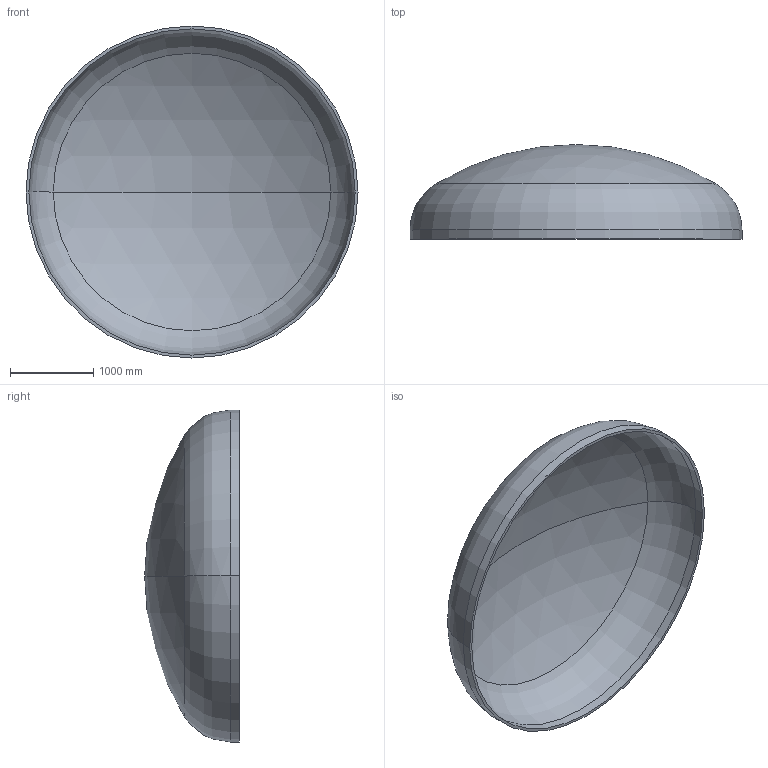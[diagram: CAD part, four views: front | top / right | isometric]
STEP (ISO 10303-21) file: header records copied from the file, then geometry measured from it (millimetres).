
FILE_DESCRIPTION (( 'STEP AP203' ), '1' );
FILE_NAME ('DIN 28013 Korbbogenform_-_Boden DIN 28013 - 4000 x 110 - I - s=35.step', '2016-07-01T22:18:48', ( '' ), ( '' ), 'SwSTEP 2.0', 'SolidWorks 2013', '' );
FILE_SCHEMA (( 'CONFIG_CONTROL_DESIGN' ));
Length unit declared in the file: millimetre
Products named in the file (1): DIN 28013 Korbbogenform_-_Boden DIN 28013 - 4000 x 110 - I - s=35
Bounding box: 4000 x 1140.52 x 4000 mm (x, y, z)
Volume: 649908078.7 mm3; surface area: 37576130.7 mm2
Topology: 1 solids, 1 shells, 13 faces, 24 edges, 14 vertices
Faces by surface type: torus 4, cylinder 4, sphere 4, plane 1
Entity records: 407 total; most frequent: DIRECTION 72, CARTESIAN_POINT 52, ORIENTED_EDGE 48, AXIS2_PLACEMENT_3D 34, EDGE_CURVE 24, CIRCLE 20, EDGE_LOOP 14, VERTEX_POINT 14
